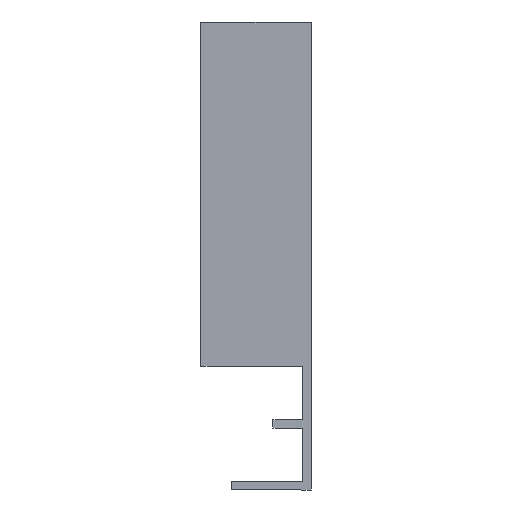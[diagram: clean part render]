
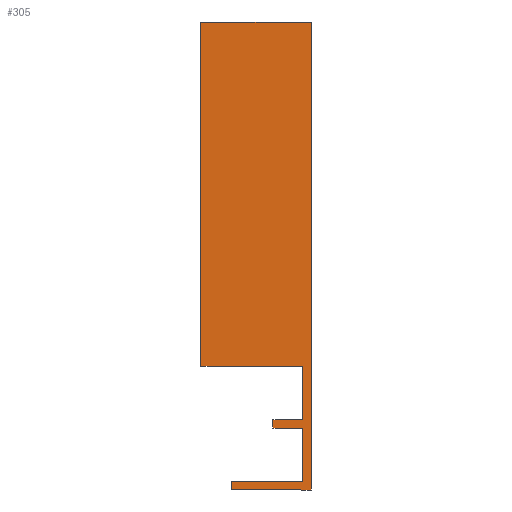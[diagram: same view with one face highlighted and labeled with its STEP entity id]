
A CAD part, left-side view. The second image highlights one B-rep face of the part: STEP entity #305.
In plain terms, the highlighted planar face has unit normal (-1, 0, 0).
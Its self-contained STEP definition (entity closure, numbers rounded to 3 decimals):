
#3 = LINE ( 'NONE', #423, #177 ) ;
#4 = VECTOR ( 'NONE', #406, 1000. ) ;
#12 = VECTOR ( 'NONE', #389, 1000. ) ;
#15 = LINE ( 'NONE', #393, #4 ) ;
#22 = LINE ( 'NONE', #328, #12 ) ;
#26 = LINE ( 'NONE', #379, #28 ) ;
#28 = VECTOR ( 'NONE', #384, 1000. ) ;
#34 = VECTOR ( 'NONE', #374, 1000. ) ;
#35 = LINE ( 'NONE', #373, #34 ) ;
#36 = VECTOR ( 'NONE', #372, 1000. ) ;
#37 = LINE ( 'NONE', #371, #36 ) ;
#38 = VECTOR ( 'NONE', #370, 1000. ) ;
#39 = LINE ( 'NONE', #369, #38 ) ;
#40 = VECTOR ( 'NONE', #368, 1000. ) ;
#41 = LINE ( 'NONE', #367, #40 ) ;
#43 = LINE ( 'NONE', #360, #46 ) ;
#46 = VECTOR ( 'NONE', #366, 1000. ) ;
#49 = LINE ( 'NONE', #355, #50 ) ;
#50 = VECTOR ( 'NONE', #356, 1000. ) ;
#59 = ORIENTED_EDGE ( 'NONE', *, *, #294, .T. ) ;
#60 = ORIENTED_EDGE ( 'NONE', *, *, #253, .T. ) ;
#61 = ORIENTED_EDGE ( 'NONE', *, *, #238, .T. ) ;
#62 = ORIENTED_EDGE ( 'NONE', *, *, #298, .T. ) ;
#63 = ORIENTED_EDGE ( 'NONE', *, *, #237, .T. ) ;
#64 = ORIENTED_EDGE ( 'NONE', *, *, #240, .T. ) ;
#123 = EDGE_LOOP ( 'NONE', ( #132, #154, #153, #152, #125, #126, #59, #60, #61, #62, #63, #64 ) ) ;
#125 = ORIENTED_EDGE ( 'NONE', *, *, #239, .T. ) ;
#126 = ORIENTED_EDGE ( 'NONE', *, *, #289, .T. ) ;
#132 = ORIENTED_EDGE ( 'NONE', *, *, #265, .T. ) ;
#152 = ORIENTED_EDGE ( 'NONE', *, *, #273, .T. ) ;
#153 = ORIENTED_EDGE ( 'NONE', *, *, #236, .T. ) ;
#154 = ORIENTED_EDGE ( 'NONE', *, *, #232, .T. ) ;
#173 = LINE ( 'NONE', #427, #174 ) ;
#174 = VECTOR ( 'NONE', #428, 1000. ) ;
#177 = VECTOR ( 'NONE', #433, 1000. ) ;
#185 = LINE ( 'NONE', #441, #186 ) ;
#186 = VECTOR ( 'NONE', #442, 1000. ) ;
#187 = FACE_OUTER_BOUND ( 'NONE', #123, .T. ) ;
#216 = VERTEX_POINT ( 'NONE', #348 ) ;
#218 = VERTEX_POINT ( 'NONE', #231 ) ;
#219 = CARTESIAN_POINT ( 'NONE',  ( -235.5, 0., -7.75 ) ) ;
#221 = VERTEX_POINT ( 'NONE', #219 ) ;
#223 = VERTEX_POINT ( 'NONE', #229 ) ;
#224 = VERTEX_POINT ( 'NONE', #351 ) ;
#225 = VERTEX_POINT ( 'NONE', #228 ) ;
#228 = CARTESIAN_POINT ( 'NONE',  ( -235.5, 6., -17.9 ) ) ;
#229 = CARTESIAN_POINT ( 'NONE',  ( -235.5, 0., -8.95 ) ) ;
#231 = CARTESIAN_POINT ( 'NONE',  ( -235.5, -4.3, -7.75 ) ) ;
#232 = EDGE_CURVE ( 'NONE', #331, #225, #49, .T. ) ;
#236 = EDGE_CURVE ( 'NONE', #225, #342, #43, .T. ) ;
#237 = EDGE_CURVE ( 'NONE', #223, #224, #41, .T. ) ;
#238 = EDGE_CURVE ( 'NONE', #218, #221, #39, .T. ) ;
#239 = EDGE_CURVE ( 'NONE', #337, #338, #37, .T. ) ;
#240 = EDGE_CURVE ( 'NONE', #224, #349, #35, .T. ) ;
#253 = EDGE_CURVE ( 'NONE', #216, #218, #26, .T. ) ;
#265 = EDGE_CURVE ( 'NONE', #349, #331, #22, .T. ) ;
#269 = AXIS2_PLACEMENT_3D ( 'NONE', #447, #453, #454 ) ;
#273 = EDGE_CURVE ( 'NONE', #342, #337, #15, .T. ) ;
#289 = EDGE_CURVE ( 'NONE', #338, #340, #173, .T. ) ;
#294 = EDGE_CURVE ( 'NONE', #340, #216, #3, .T. ) ;
#298 = EDGE_CURVE ( 'NONE', #221, #223, #185, .T. ) ;
#305 = ADVANCED_FACE ( 'NONE', ( #187 ), #432, .T. ) ;
#328 = CARTESIAN_POINT ( 'NONE',  ( -235.5, -4.3, -16.7 ) ) ;
#331 = VERTEX_POINT ( 'NONE', #515 ) ;
#337 = VERTEX_POINT ( 'NONE', #520 ) ;
#338 = VERTEX_POINT ( 'NONE', #521 ) ;
#340 = VERTEX_POINT ( 'NONE', #522 ) ;
#342 = VERTEX_POINT ( 'NONE', #524 ) ;
#348 = CARTESIAN_POINT ( 'NONE',  ( -235.5, -4.3, 0. ) ) ;
#349 = VERTEX_POINT ( 'NONE', #527 ) ;
#351 = CARTESIAN_POINT ( 'NONE',  ( -235.5, -4.3, -8.95 ) ) ;
#355 = CARTESIAN_POINT ( 'NONE',  ( -235.5, 6., -16.7 ) ) ;
#356 = DIRECTION ( 'NONE',  ( 0., 0., -1. ) ) ;
#360 = CARTESIAN_POINT ( 'NONE',  ( -235.5, 6., -17.9 ) ) ;
#366 = DIRECTION ( 'NONE',  ( 0., -1., 0. ) ) ;
#367 = CARTESIAN_POINT ( 'NONE',  ( -235.5, 0., -8.95 ) ) ;
#368 = DIRECTION ( 'NONE',  ( 0., -1., 0. ) ) ;
#369 = CARTESIAN_POINT ( 'NONE',  ( -235.5, -4.3, -7.75 ) ) ;
#370 = DIRECTION ( 'NONE',  ( 0., 1., 0. ) ) ;
#371 = CARTESIAN_POINT ( 'NONE',  ( -235.5, -5.5, 49.7 ) ) ;
#372 = DIRECTION ( 'NONE',  ( 0., 1., 0. ) ) ;
#373 = CARTESIAN_POINT ( 'NONE',  ( -235.5, -4.3, -8.95 ) ) ;
#374 = DIRECTION ( 'NONE',  ( 0., 0., -1. ) ) ;
#379 = CARTESIAN_POINT ( 'NONE',  ( -235.5, -4.3, 0. ) ) ;
#384 = DIRECTION ( 'NONE',  ( 0., 0., -1. ) ) ;
#389 = DIRECTION ( 'NONE',  ( 0., 1., 0. ) ) ;
#393 = CARTESIAN_POINT ( 'NONE',  ( -235.5, -5.5, -17.9 ) ) ;
#406 = DIRECTION ( 'NONE',  ( 0., 0., 1. ) ) ;
#423 = CARTESIAN_POINT ( 'NONE',  ( -235.5, 10.4, 0. ) ) ;
#427 = CARTESIAN_POINT ( 'NONE',  ( -235.5, 10.4, 49.7 ) ) ;
#428 = DIRECTION ( 'NONE',  ( 0., 0., -1. ) ) ;
#432 = PLANE ( 'NONE',  #269 ) ;
#433 = DIRECTION ( 'NONE',  ( 0., -1., 0. ) ) ;
#441 = CARTESIAN_POINT ( 'NONE',  ( -235.5, 0., -7.75 ) ) ;
#442 = DIRECTION ( 'NONE',  ( 0., 0., -1. ) ) ;
#447 = CARTESIAN_POINT ( 'NONE',  ( -235.5, 6., -16.7 ) ) ;
#453 = DIRECTION ( 'NONE',  ( -1., 0., 0. ) ) ;
#454 = DIRECTION ( 'NONE',  ( 0., -1., 0. ) ) ;
#515 = CARTESIAN_POINT ( 'NONE',  ( -235.5, 6., -16.7 ) ) ;
#520 = CARTESIAN_POINT ( 'NONE',  ( -235.5, -5.5, 49.7 ) ) ;
#521 = CARTESIAN_POINT ( 'NONE',  ( -235.5, 10.4, 49.7 ) ) ;
#522 = CARTESIAN_POINT ( 'NONE',  ( -235.5, 10.4, 0. ) ) ;
#524 = CARTESIAN_POINT ( 'NONE',  ( -235.5, -5.5, -17.9 ) ) ;
#527 = CARTESIAN_POINT ( 'NONE',  ( -235.5, -4.3, -16.7 ) ) ;
